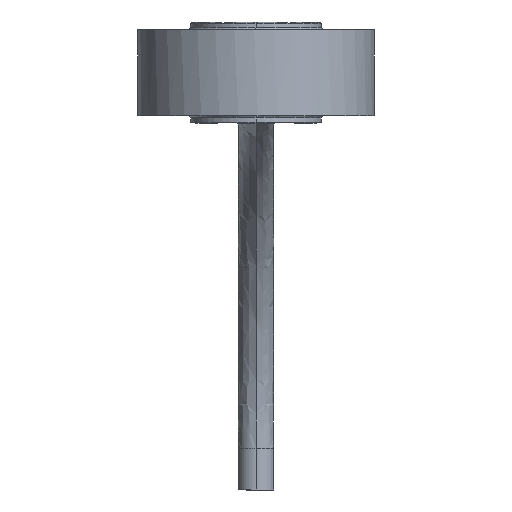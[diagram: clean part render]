
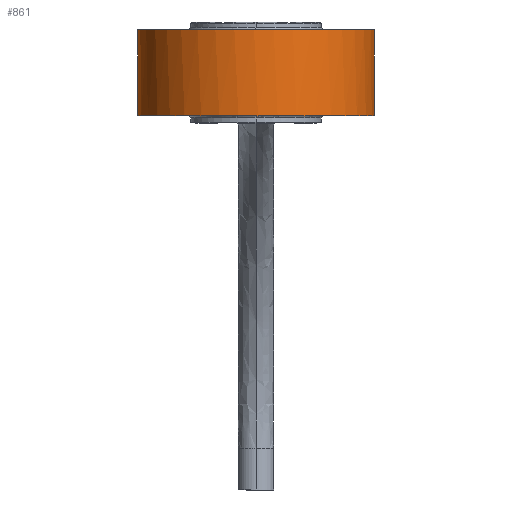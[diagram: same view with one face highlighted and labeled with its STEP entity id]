
A CAD part, front view. The second image highlights one B-rep face of the part: STEP entity #861.
In plain terms, the highlighted free-form (B-spline) face has degree [10, 1] with [11, 2] control points.
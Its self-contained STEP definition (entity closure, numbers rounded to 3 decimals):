
#6 = CARTESIAN_POINT ( 'NONE',  ( -12.695, 3.485, 7.994 ) ) ;
#8 = VECTOR ( 'NONE', #1378, 1000. ) ;
#66 = CARTESIAN_POINT ( 'NONE',  ( 12.675, 2.455, 7.85 ) ) ;
#67 = CARTESIAN_POINT ( 'NONE',  ( -3.25, 9.404, 4.25 ) ) ;
#132 = EDGE_CURVE ( 'NONE', #2541, #1604, #436, .T. ) ;
#151 = ORIENTED_EDGE ( 'NONE', *, *, #1084, .T. ) ;
#167 = B_SPLINE_SURFACE_WITH_KNOTS ( 'NONE', 10, 1, ( 
 ( #998, #1644 ),
 ( #410, #2117 ),
 ( #1899, #1036 ),
 ( #2351, #2520 ),
 ( #422, #643 ),
 ( #2769, #2757 ),
 ( #2559, #1689 ),
 ( #2336, #2299 ),
 ( #6, #606 ),
 ( #197, #435 ),
 ( #2322, #1047 ) ),
 .UNSPECIFIED., .F., .F., .F.,
 ( 11, 11 ),
 ( 2, 2 ),
 ( -6.063, -0.22 ),
 ( 0.216, 7.704 ),
 .UNSPECIFIED. ) ;
#183 = CARTESIAN_POINT ( 'NONE',  ( 12.675, 2.455, 0.65 ) ) ;
#197 = CARTESIAN_POINT ( 'NONE',  ( -7.848, 8.439, 7.994 ) ) ;
#283 = CARTESIAN_POINT ( 'NONE',  ( 13.358, -5.166, 7.85 ) ) ;
#298 = CARTESIAN_POINT ( 'NONE',  ( -0.016, -16.033, 7.85 ) ) ;
#368 = CARTESIAN_POINT ( 'NONE',  ( 8.961, -12.619, 0.65 ) ) ;
#384 = CARTESIAN_POINT ( 'NONE',  ( 3.25, 9.404, 0.65 ) ) ;
#410 = CARTESIAN_POINT ( 'NONE',  ( 7.848, 8.439, 7.994 ) ) ;
#422 = CARTESIAN_POINT ( 'NONE',  ( 9.72, -12.802, 7.994 ) ) ;
#435 = CARTESIAN_POINT ( 'NONE',  ( -7.848, 8.439, 0.506 ) ) ;
#436 = LINE ( 'NONE', #1261, #2656 ) ;
#455 = ORIENTED_EDGE ( 'NONE', *, *, #525, .T. ) ;
#486 = EDGE_CURVE ( 'NONE', #1735, #1765, #2664, .T. ) ;
#522 = CARTESIAN_POINT ( 'NONE',  ( 8.533, 7.578, 7.85 ) ) ;
#525 = EDGE_CURVE ( 'NONE', #782, #1735, #1960, .T. ) ;
#560 = EDGE_CURVE ( 'NONE', #2607, #2541, #832, .T. ) ;
#589 = CARTESIAN_POINT ( 'NONE',  ( 3.25, 9.404, 4.25 ) ) ;
#606 = CARTESIAN_POINT ( 'NONE',  ( -12.695, 3.485, 0.506 ) ) ;
#643 = CARTESIAN_POINT ( 'NONE',  ( 9.72, -12.802, 0.506 ) ) ;
#729 = CARTESIAN_POINT ( 'NONE',  ( -12.676, 2.455, 7.85 ) ) ;
#745 = CARTESIAN_POINT ( 'NONE',  ( 8.961, -12.619, 7.85 ) ) ;
#752 = VERTEX_POINT ( 'NONE', #2620 ) ;
#782 = VERTEX_POINT ( 'NONE', #1425 ) ;
#796 = VECTOR ( 'NONE', #1674, 1000. ) ;
#832 = B_SPLINE_CURVE_WITH_KNOTS ( 'NONE', 10,
 ( #1102, #843, #1693, #1234, #2271, #1205, #368, #2506, #183, #1008, #384 ),
 .UNSPECIFIED., .F., .F.,
 ( 11, 11 ),
 ( 0., 0.055 ),
 .UNSPECIFIED. ) ;
#843 = CARTESIAN_POINT ( 'NONE',  ( -8.533, 7.578, 0.65 ) ) ;
#861 = ADVANCED_FACE ( 'NONE', ( #1411 ), #167, .T. ) ;
#953 = DIRECTION ( 'NONE',  ( 0., 0., -1. ) ) ;
#954 = VECTOR ( 'NONE', #1288, 1000. ) ;
#982 = EDGE_CURVE ( 'NONE', #1765, #752, #2744, .T. ) ;
#998 = CARTESIAN_POINT ( 'NONE',  ( 2.175, 9.709, 7.994 ) ) ;
#1008 = CARTESIAN_POINT ( 'NONE',  ( 8.533, 7.578, 0.65 ) ) ;
#1036 = CARTESIAN_POINT ( 'NONE',  ( 12.695, 3.485, 0.506 ) ) ;
#1047 = CARTESIAN_POINT ( 'NONE',  ( -2.175, 9.709, 0.506 ) ) ;
#1069 = ORIENTED_EDGE ( 'NONE', *, *, #132, .T. ) ;
#1084 = EDGE_CURVE ( 'NONE', #2210, #782, #1440, .T. ) ;
#1102 = CARTESIAN_POINT ( 'NONE',  ( -3.25, 9.404, 0.65 ) ) ;
#1131 = CARTESIAN_POINT ( 'NONE',  ( -8.938, -12.619, 7.85 ) ) ;
#1205 = CARTESIAN_POINT ( 'NONE',  ( -0.016, -16.033, 0.65 ) ) ;
#1223 = LINE ( 'NONE', #1448, #1283 ) ;
#1234 = CARTESIAN_POINT ( 'NONE',  ( -13.363, -5.166, 0.65 ) ) ;
#1261 = CARTESIAN_POINT ( 'NONE',  ( 3.25, 9.404, 4.25 ) ) ;
#1283 = VECTOR ( 'NONE', #1396, 1000. ) ;
#1288 = DIRECTION ( 'NONE',  ( 0., 0., -1. ) ) ;
#1297 = ORIENTED_EDGE ( 'NONE', *, *, #2199, .T. ) ;
#1378 = DIRECTION ( 'NONE',  ( 0., 0., -1. ) ) ;
#1396 = DIRECTION ( 'NONE',  ( 0., 0., 1. ) ) ;
#1411 = FACE_OUTER_BOUND ( 'NONE', #2715, .T. ) ;
#1417 = CARTESIAN_POINT ( 'NONE',  ( -3.25, 9.404, 5.062 ) ) ;
#1425 = CARTESIAN_POINT ( 'NONE',  ( 3.25, 9.404, 7.85 ) ) ;
#1440 = LINE ( 'NONE', #589, #796 ) ;
#1448 = CARTESIAN_POINT ( 'NONE',  ( 3.25, 9.404, 4.25 ) ) ;
#1468 = CARTESIAN_POINT ( 'NONE',  ( -3.25, 9.404, 4.25 ) ) ;
#1544 = EDGE_CURVE ( 'NONE', #1604, #2210, #1223, .T. ) ;
#1596 = CARTESIAN_POINT ( 'NONE',  ( 3.25, 9.404, 5.062 ) ) ;
#1604 = VERTEX_POINT ( 'NONE', #2574 ) ;
#1633 = ORIENTED_EDGE ( 'NONE', *, *, #560, .T. ) ;
#1644 = CARTESIAN_POINT ( 'NONE',  ( 2.175, 9.709, 0.506 ) ) ;
#1673 = ORIENTED_EDGE ( 'NONE', *, *, #1544, .T. ) ;
#1674 = DIRECTION ( 'NONE',  ( 0., 0., 1. ) ) ;
#1689 = CARTESIAN_POINT ( 'NONE',  ( -9.687, -12.803, 0.506 ) ) ;
#1693 = CARTESIAN_POINT ( 'NONE',  ( -12.676, 2.455, 0.65 ) ) ;
#1735 = VERTEX_POINT ( 'NONE', #2595 ) ;
#1765 = VERTEX_POINT ( 'NONE', #1417 ) ;
#1804 = CARTESIAN_POINT ( 'NONE',  ( -3.25, 9.404, 4.25 ) ) ;
#1896 = VECTOR ( 'NONE', #953, 1000. ) ;
#1899 = CARTESIAN_POINT ( 'NONE',  ( 12.695, 3.485, 7.994 ) ) ;
#1927 = DIRECTION ( 'NONE',  ( 0., 0., 1. ) ) ;
#1960 = B_SPLINE_CURVE_WITH_KNOTS ( 'NONE', 10,
 ( #2202, #522, #66, #283, #745, #298, #1131, #1982, #729, #2248, #2631 ),
 .UNSPECIFIED., .F., .F.,
 ( 11, 11 ),
 ( 0., 0.055 ),
 .UNSPECIFIED. ) ;
#1982 = CARTESIAN_POINT ( 'NONE',  ( -13.363, -5.166, 7.85 ) ) ;
#1983 = LINE ( 'NONE', #67, #1896 ) ;
#2117 = CARTESIAN_POINT ( 'NONE',  ( 7.848, 8.439, 0.506 ) ) ;
#2199 = EDGE_CURVE ( 'NONE', #752, #2607, #1983, .T. ) ;
#2202 = CARTESIAN_POINT ( 'NONE',  ( 3.25, 9.404, 7.85 ) ) ;
#2210 = VERTEX_POINT ( 'NONE', #1596 ) ;
#2248 = CARTESIAN_POINT ( 'NONE',  ( -8.533, 7.578, 7.85 ) ) ;
#2271 = CARTESIAN_POINT ( 'NONE',  ( -8.938, -12.619, 0.65 ) ) ;
#2299 = CARTESIAN_POINT ( 'NONE',  ( -14.024, -4.55, 0.506 ) ) ;
#2322 = CARTESIAN_POINT ( 'NONE',  ( -2.175, 9.709, 7.994 ) ) ;
#2336 = CARTESIAN_POINT ( 'NONE',  ( -14.024, -4.55, 7.994 ) ) ;
#2351 = CARTESIAN_POINT ( 'NONE',  ( 14.013, -4.55, 7.994 ) ) ;
#2354 = CARTESIAN_POINT ( 'NONE',  ( 3.25, 9.404, 0.65 ) ) ;
#2386 = ORIENTED_EDGE ( 'NONE', *, *, #982, .T. ) ;
#2506 = CARTESIAN_POINT ( 'NONE',  ( 13.358, -5.166, 0.65 ) ) ;
#2520 = CARTESIAN_POINT ( 'NONE',  ( 14.013, -4.55, 0.506 ) ) ;
#2531 = CARTESIAN_POINT ( 'NONE',  ( -3.25, 9.404, 0.65 ) ) ;
#2541 = VERTEX_POINT ( 'NONE', #2354 ) ;
#2559 = CARTESIAN_POINT ( 'NONE',  ( -9.687, -12.803, 7.994 ) ) ;
#2574 = CARTESIAN_POINT ( 'NONE',  ( 3.25, 9.404, 3.438 ) ) ;
#2595 = CARTESIAN_POINT ( 'NONE',  ( -3.25, 9.404, 7.85 ) ) ;
#2607 = VERTEX_POINT ( 'NONE', #2531 ) ;
#2620 = CARTESIAN_POINT ( 'NONE',  ( -3.25, 9.404, 3.438 ) ) ;
#2631 = CARTESIAN_POINT ( 'NONE',  ( -3.25, 9.404, 7.85 ) ) ;
#2656 = VECTOR ( 'NONE', #1927, 1000. ) ;
#2664 = LINE ( 'NONE', #1804, #8 ) ;
#2703 = ORIENTED_EDGE ( 'NONE', *, *, #486, .T. ) ;
#2715 = EDGE_LOOP ( 'NONE', ( #1069, #1673, #151, #455, #2703, #2386, #1297, #1633 ) ) ;
#2744 = LINE ( 'NONE', #1468, #954 ) ;
#2757 = CARTESIAN_POINT ( 'NONE',  ( -0.022, -16.753, 0.506 ) ) ;
#2769 = CARTESIAN_POINT ( 'NONE',  ( -0.022, -16.753, 7.994 ) ) ;
